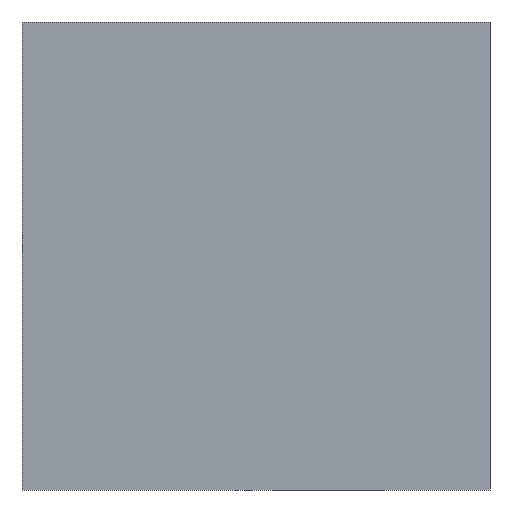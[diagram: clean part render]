
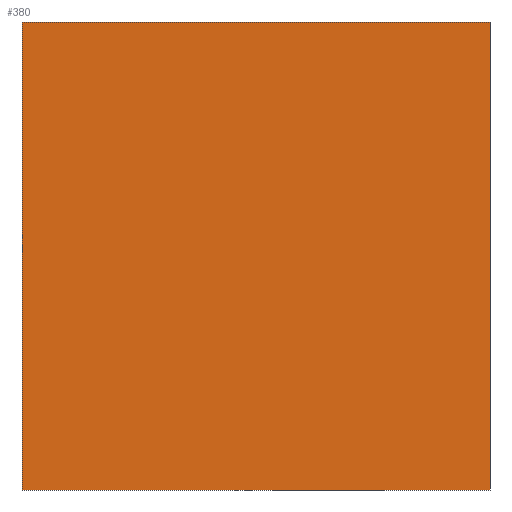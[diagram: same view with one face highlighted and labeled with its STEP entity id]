
A CAD part, front view. The second image highlights one B-rep face of the part: STEP entity #380.
In plain terms, the highlighted planar face has unit normal (0, -1, 0).
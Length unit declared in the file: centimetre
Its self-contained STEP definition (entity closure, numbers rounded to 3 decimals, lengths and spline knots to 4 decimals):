
#8 = ORIENTED_EDGE ( 'NONE', *, *, #81, .T. ) ;
#19 = VECTOR ( 'NONE', #691, 100. ) ;
#49 = CARTESIAN_POINT ( 'NONE',  ( 0., 0., 1000. ) ) ;
#81 = EDGE_CURVE ( 'NONE', #527, #767, #438, .T. ) ;
#129 = AXIS2_PLACEMENT_3D ( 'NONE', #49, #392, #731 ) ;
#162 = ORIENTED_EDGE ( 'NONE', *, *, #216, .F. ) ;
#216 = EDGE_CURVE ( 'NONE', #537, #778, #635, .T. ) ;
#242 = EDGE_LOOP ( 'NONE', ( #1086, #162, #276, #8 ) ) ;
#254 = EDGE_CURVE ( 'NONE', #767, #778, #538, .T. ) ;
#276 = ORIENTED_EDGE ( 'NONE', *, *, #623, .F. ) ;
#293 = DIRECTION ( 'NONE',  ( 1., 0., 0. ) ) ;
#316 = CARTESIAN_POINT ( 'NONE',  ( 0., 0., 0. ) ) ;
#317 = PLANE ( 'NONE',  #129 ) ;
#380 = ADVANCED_FACE ( 'NONE', ( #811 ), #317, .F. ) ;
#392 = DIRECTION ( 'NONE',  ( 0., 1., 0. ) ) ;
#438 = LINE ( 'NONE', #525, #629 ) ;
#525 = CARTESIAN_POINT ( 'NONE',  ( 0., 0., 1000. ) ) ;
#527 = VERTEX_POINT ( 'NONE', #597 ) ;
#537 = VERTEX_POINT ( 'NONE', #1073 ) ;
#538 = LINE ( 'NONE', #801, #682 ) ;
#554 = DIRECTION ( 'NONE',  ( 1., 0., 0. ) ) ;
#597 = CARTESIAN_POINT ( 'NONE',  ( 0., 0., 1000. ) ) ;
#621 = DIRECTION ( 'NONE',  ( 0., 0., -1. ) ) ;
#623 = EDGE_CURVE ( 'NONE', #527, #537, #633, .T. ) ;
#629 = VECTOR ( 'NONE', #621, 100. ) ;
#633 = LINE ( 'NONE', #648, #804 ) ;
#635 = LINE ( 'NONE', #768, #19 ) ;
#648 = CARTESIAN_POINT ( 'NONE',  ( 0., 0., 1000. ) ) ;
#682 = VECTOR ( 'NONE', #293, 100. ) ;
#691 = DIRECTION ( 'NONE',  ( 0., 0., -1. ) ) ;
#731 = DIRECTION ( 'NONE',  ( 0., 0., 1. ) ) ;
#767 = VERTEX_POINT ( 'NONE', #316 ) ;
#768 = CARTESIAN_POINT ( 'NONE',  ( 1000., 0., 1000. ) ) ;
#778 = VERTEX_POINT ( 'NONE', #1065 ) ;
#801 = CARTESIAN_POINT ( 'NONE',  ( 0., 0., 0. ) ) ;
#804 = VECTOR ( 'NONE', #554, 100. ) ;
#811 = FACE_OUTER_BOUND ( 'NONE', #242, .T. ) ;
#1065 = CARTESIAN_POINT ( 'NONE',  ( 1000., 0., 0. ) ) ;
#1073 = CARTESIAN_POINT ( 'NONE',  ( 1000., 0., 1000. ) ) ;
#1086 = ORIENTED_EDGE ( 'NONE', *, *, #254, .T. ) ;
